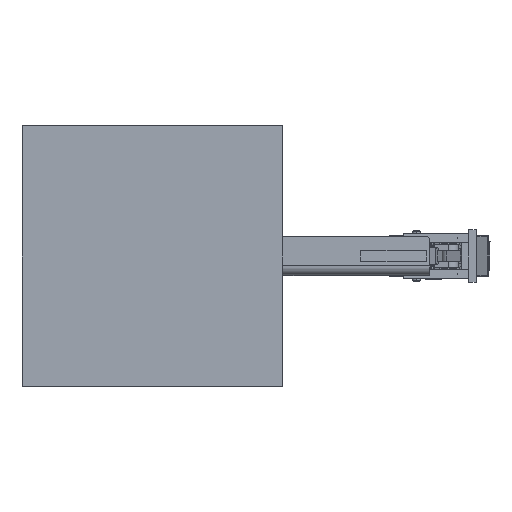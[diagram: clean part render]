
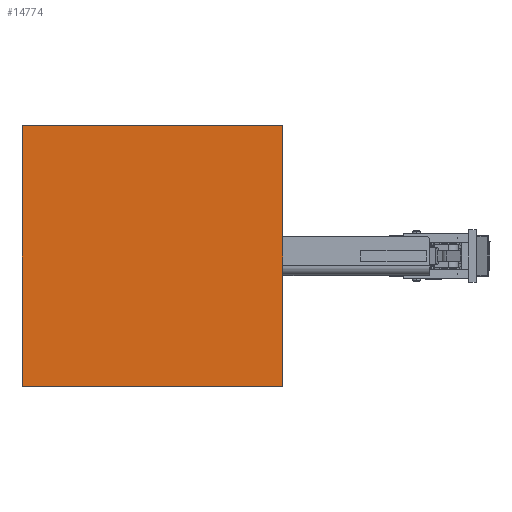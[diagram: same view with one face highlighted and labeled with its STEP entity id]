
A CAD part, left-side view. The second image highlights one B-rep face of the part: STEP entity #14774.
In plain terms, the highlighted planar face has unit normal (-1, 0, 0) as drawn and (0, 0, -1) by its records, which use the part's own axes.
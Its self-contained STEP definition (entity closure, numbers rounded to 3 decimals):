
#905 = DIRECTION ( 'NONE',  ( -1., 0., 0. ) ) ;
#1127 = CARTESIAN_POINT ( 'NONE',  ( -200., 200., 0. ) ) ;
#7804 = CARTESIAN_POINT ( 'NONE',  ( 0., 0., 0. ) ) ;
#8967 = DIRECTION ( 'NONE',  ( 0., -1., 0. ) ) ;
#9084 = VECTOR ( 'NONE', #8967, 1000. ) ;
#10334 = CARTESIAN_POINT ( 'NONE',  ( 200., 200., 0. ) ) ;
#10848 = PLANE ( 'NONE',  #14799 ) ;
#12496 = CARTESIAN_POINT ( 'NONE',  ( -200., -200., 0. ) ) ;
#12947 = EDGE_CURVE ( 'NONE', #20284, #14189, #27456, .T. ) ;
#13847 = FACE_OUTER_BOUND ( 'NONE', #16835, .T. ) ;
#14189 = VERTEX_POINT ( 'NONE', #12496 ) ;
#14310 = EDGE_CURVE ( 'NONE', #14189, #36035, #37819, .T. ) ;
#14700 = ORIENTED_EDGE ( 'NONE', *, *, #31169, .F. ) ;
#14774 = ADVANCED_FACE ( 'NONE', ( #13847 ), #10848, .T. ) ;
#14799 = AXIS2_PLACEMENT_3D ( 'NONE', #7804, #20044, #32309 ) ;
#15689 = ORIENTED_EDGE ( 'NONE', *, *, #14310, .F. ) ;
#16835 = EDGE_LOOP ( 'NONE', ( #14700, #15689, #18570, #17739 ) ) ;
#17739 = ORIENTED_EDGE ( 'NONE', *, *, #37765, .F. ) ;
#18570 = ORIENTED_EDGE ( 'NONE', *, *, #12947, .F. ) ;
#19588 = LINE ( 'NONE', #1127, #38181 ) ;
#19944 = VERTEX_POINT ( 'NONE', #10334 ) ;
#20044 = DIRECTION ( 'NONE',  ( 0., 0., -1. ) ) ;
#20284 = VERTEX_POINT ( 'NONE', #39649 ) ;
#21816 = VECTOR ( 'NONE', #34794, 1000. ) ;
#23721 = VECTOR ( 'NONE', #25675, 1000. ) ;
#25675 = DIRECTION ( 'NONE',  ( 0., 1., 0. ) ) ;
#26257 = LINE ( 'NONE', #34713, #23721 ) ;
#27456 = LINE ( 'NONE', #30259, #9084 ) ;
#29569 = CARTESIAN_POINT ( 'NONE',  ( -200., -200., 0. ) ) ;
#30259 = CARTESIAN_POINT ( 'NONE',  ( -200., -200., 0. ) ) ;
#31169 = EDGE_CURVE ( 'NONE', #36035, #19944, #26257, .T. ) ;
#32309 = DIRECTION ( 'NONE',  ( -1., 0., 0. ) ) ;
#34713 = CARTESIAN_POINT ( 'NONE',  ( 200., -200., 0. ) ) ;
#34794 = DIRECTION ( 'NONE',  ( 1., 0., 0. ) ) ;
#36035 = VERTEX_POINT ( 'NONE', #36147 ) ;
#36147 = CARTESIAN_POINT ( 'NONE',  ( 200., -200., 0. ) ) ;
#37765 = EDGE_CURVE ( 'NONE', #19944, #20284, #19588, .T. ) ;
#37819 = LINE ( 'NONE', #29569, #21816 ) ;
#38181 = VECTOR ( 'NONE', #905, 1000. ) ;
#39649 = CARTESIAN_POINT ( 'NONE',  ( -200., 200., 0. ) ) ;
